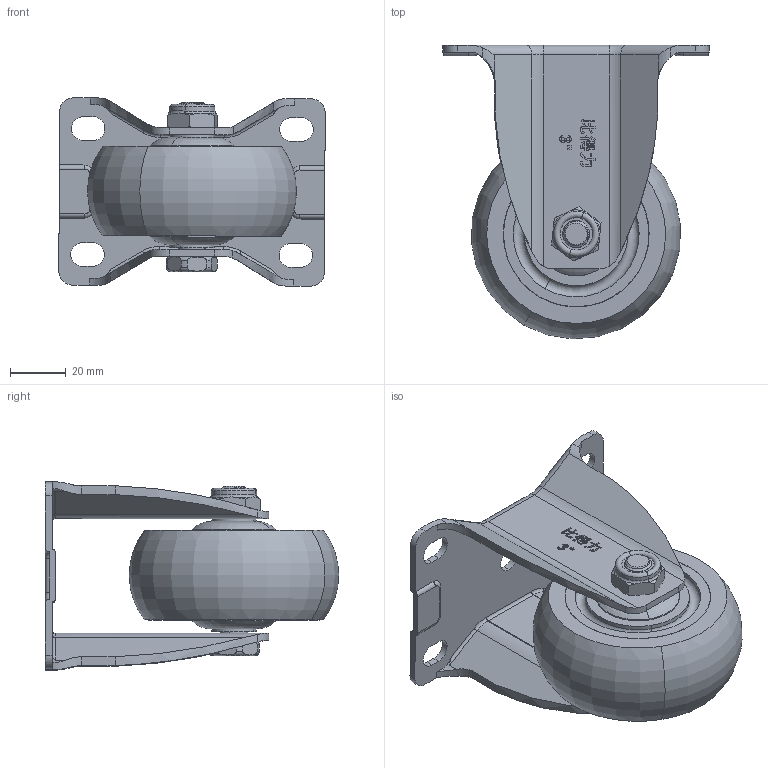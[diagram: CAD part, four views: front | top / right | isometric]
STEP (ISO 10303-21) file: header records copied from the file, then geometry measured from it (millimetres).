
FILE_DESCRIPTION (( 'STEP AP203' ), '1' );
FILE_NAME ('3寸定向.STEP', '2024-03-19T03:35:33', ( '微软用户' ), ( '微软中国' ), 'SwSTEP 2.0', 'SolidWorks 2008', '' );
FILE_SCHEMA (( 'CONFIG_CONTROL_DESIGN' ));
Length unit declared in the file: millimetre
Products named in the file (5): 3渡隅砃; M10蹟譫; M10-55蹟裝; 2023-3-18  3寸固定支架_默认; 中型3寸轮_默认
Assembly tree (4 placements, depth 2):
  3渡隅砃
    2023-3-18  3寸固定支架_默认
    M10蹟譫
    中型3寸轮_默认
    M10-55蹟裝
Bounding box: 95.23 x 104.97 x 67.34 mm (x, y, z)
Volume: 165216.6 mm3; surface area: 51764.2 mm2
Topology: 4 solids, 4 shells, 461 faces, 1225 edges, 801 vertices
Faces by surface type: plane 170, cylinder 157, bspline 80, torus 40, cone 14
Entity records: 20537 total; most frequent: CARTESIAN_POINT 9244, ORIENTED_EDGE 2446, DIRECTION 1957, EDGE_CURVE 1223, VERTEX_POINT 801, AXIS2_PLACEMENT_3D 679, VECTOR 599, LINE 599
